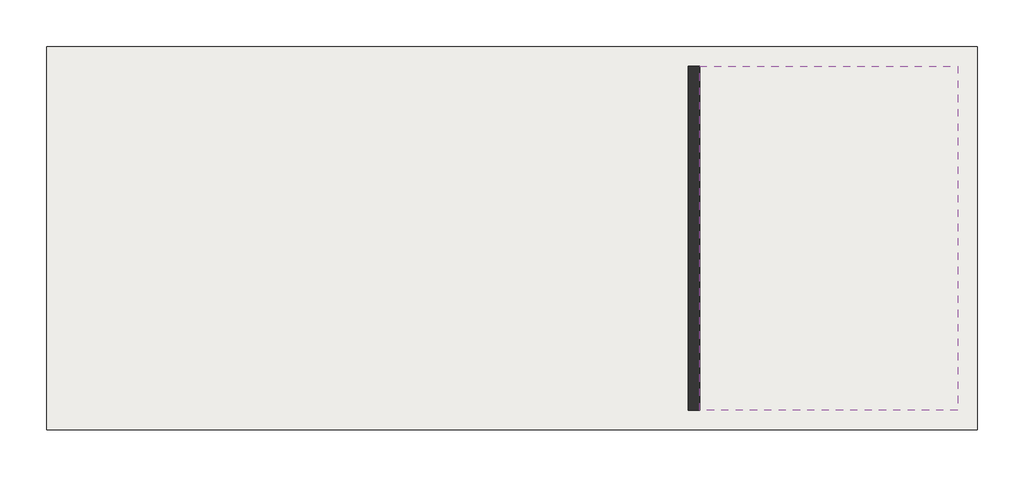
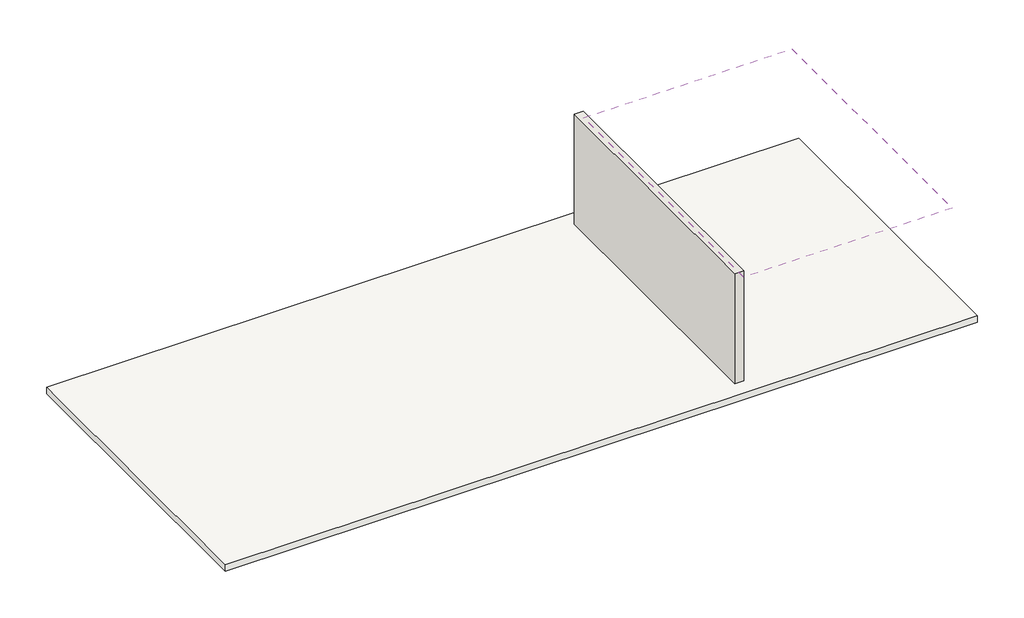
# One storey: 1 covering, 1 slab, 1 wall.
"""IFC4 building model written with IfcOpenShell, lengths in millimetres."""

from ifc_helpers import new_model, si_unit, frame, origin, place, context, project, spatial, polyline, outline, extrude, faceted_brep, element, save

model = new_model("IFC4")

# Units and contexts
model_context = context("Model", 3, world=origin())
ifc_project = project(units=[si_unit("LENGTHUNIT", "METRE", prefix="MILLI")], contexts=[model_context])

# Site, building, storey
site = spatial("IfcSite", under=ifc_project)
building = spatial("IfcBuilding", under=site)
storey = spatial("IfcBuildingStorey", under=building, Name="Уровень 2", Elevation=2700.0)

# Covering
placement = place(None, origin())
element("IfcCovering", 1, ObjectType="Сетка 600 x 1200 мм", at=placement, inside=storey, context=model_context, shape_type="SweptSolid", body=[
    extrude(outline(polyline([(15935.0, 6175.0), (15935.0, 95.0), (11375.0, 95.0), (11375.0, 6175.0), (15935.0, 6175.0)])), frame((0.0, 0.0, 5100.0), z_axis=(0.0, 0.0, 1.0), x_axis=(1.0, 0.0, 0.0)), (0.0, 0.0, 1.0), 52.0),
])

# Slab
element("IfcSlab", 2, ObjectType="Типовой 150мм", at=placement, inside=storey, context=model_context, shape_type="Brep", body=[
    faceted_brep([(-175.0, 6525.0, 2550.0), (16285.0, 6525.0, 2550.0), (16285.0, 6175.0, 2550.0), (16285.0, 95.0, 2550.0), (16285.0, -255.0, 2550.0), (-175.0, -255.0, 2550.0), (-175.0, 95.0, 2550.0), (-175.0, 6175.0, 2550.0), (-175.0, 6525.0, 2700.0), (-175.0, 6175.0, 2700.0), (-175.0, 95.0, 2700.0), (-175.0, -255.0, 2700.0), (16285.0, -255.0, 2700.0), (16285.0, 95.0, 2700.0), (16285.0, 6175.0, 2700.0), (16285.0, 6525.0, 2700.0)], [[[0, 1, 2, 3, 4, 5, 6, 7]], [[8, 9, 10, 11, 12, 13, 14, 15]], [[1, 0, 8, 15]], [[4, 3, 2, 1, 15, 14, 13, 12]], [[5, 4, 12, 11]], [[0, 7, 6, 5, 11, 10, 9, 8]]]),
])

# Wall
element("IfcWall", 3, ObjectType="Типовой - 200мм", at=placement, inside=storey, context=model_context, shape_type="SweptSolid", body=[
    extrude(outline(polyline([(11175.0, 95.0), (11175.0, 6175.0), (11375.0, 6175.0), (11375.0, 95.0), (11175.0, 95.0)])), frame((0.0, 0.0, 2700.0), z_axis=(0.0, 0.0, 1.0), x_axis=(1.0, 0.0, 0.0)), (0.0, 0.0, 1.0), 2550.0),
])

save(model, "model.ifc")
